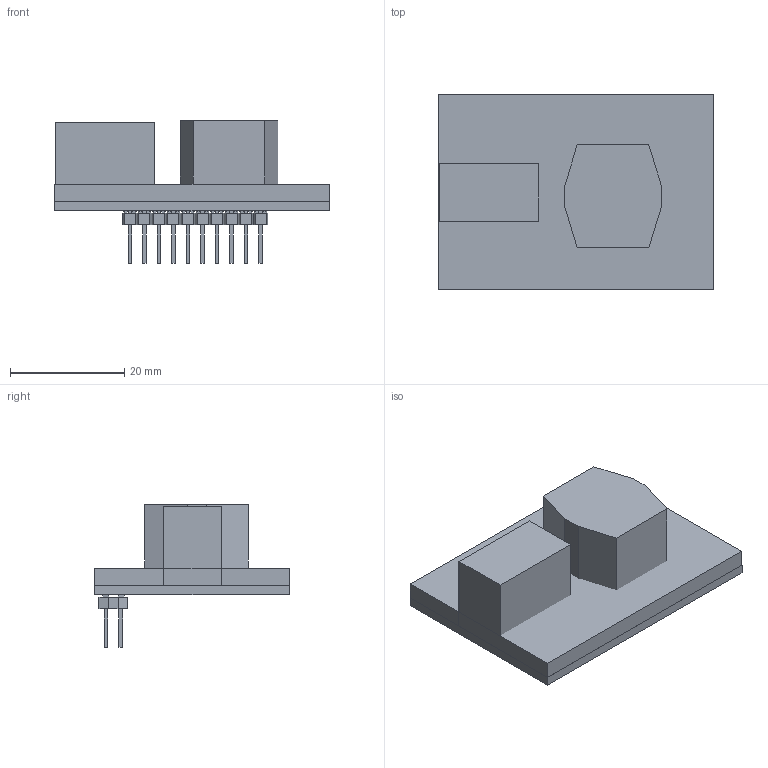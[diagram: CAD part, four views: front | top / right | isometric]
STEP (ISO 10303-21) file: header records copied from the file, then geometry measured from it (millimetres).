
FILE_DESCRIPTION(('Open CASCADE Model'),'2;1');
FILE_NAME('Open CASCADE Shape Model','2016-06-10T11:17:15',('Author'),( 'Open CASCADE'),'Open CASCADE STEP processor 6.8','Open CASCADE 6.8' ,'Unknown');
FILE_SCHEMA(('AUTOMOTIVE_DESIGN { 1 0 10303 214 1 1 1 1 }'));
Length unit declared in the file: millimetre
Products named in the file (12): PCB; Board; Free-Models; DIL_2x10; Open CASCADE STEP translator 6.8 1.2.1.1; Open CASCADE STEP translator 6.8 1.2.1.2; 835137440; Extruded; 835139616; 835140024
Assembly tree (11 placements, depth 4):
  PCB
    Board
    Free-Models
      DIL_2x10
        Open CASCADE STEP translator 6.8 1.2.1.1
        Open CASCADE STEP translator 6.8 1.2.1.2
      835137440
        Extruded
      835139616
        Extruded
      835140024
        Extruded
Bounding box: 48.03 x 34.03 x 24.98 mm (x, y, z)
Volume: 14073.5 mm3; surface area: 10956.4 mm2
Topology: 5 solids, 5 shells, 528 faces, 1354 edges, 956 vertices
Faces by surface type: plane 493, cylinder 35
Full cylindrical faces by diameter (mm): 0.55 x5, 0.7 x2, 1 x20, 1.1 x4, 4.05 x4
Entity records: 33442 total; most frequent: CARTESIAN_POINT 5898, DIRECTION 5102, LINE 3802, VECTOR 3802, ORIENTED_EDGE 2628, PCURVE 2628, DEFINITIONAL_REPRESENTATION 2628, EDGE_CURVE 1314
